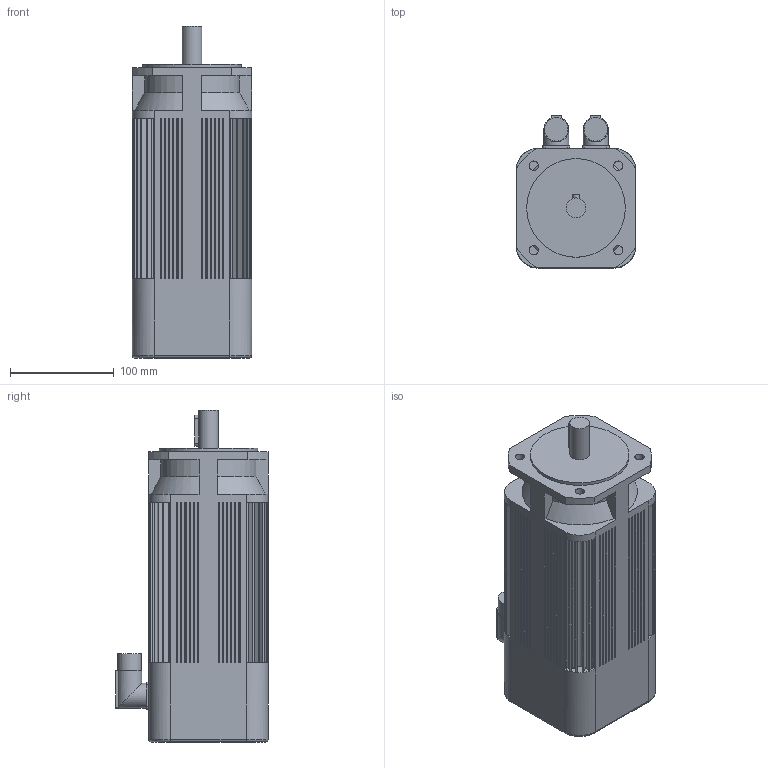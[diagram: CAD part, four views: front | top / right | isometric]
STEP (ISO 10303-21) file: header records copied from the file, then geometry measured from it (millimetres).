
FILE_DESCRIPTION(/* description */ (''),/* implementation_level */ '2;1');
FILE_NAME(/* name */ '\\Lafnas01\disegni\Archivi Lafert\3D\CAD 3D\MODELLI\Assiemi clienti\Serad\Modelli 3D Serad\B63I\Resolver\Res With Brake\B6306Ixx6B052033.ipt.stp',/* time_stamp */ '2015-09-07T10:50:43+02:00',/* author */ ('Pastrello Ylenia'),/* organization */ (''),/* preprocessor_version */ 'ST-DEVELOPER v15.6',/* originating_system */ 'Autodesk Inventor 2015',/* authorisation */ '');
FILE_SCHEMA (('AUTOMOTIVE_DESIGN { 1 0 10303 214 3 1 1 }'));
Length unit declared in the file: millimetre
Products named in the file (1): B6306Ixx6B052033
Bounding box: 115 x 146.5 x 319.5 mm (x, y, z)
Volume: 3439210.3 mm3; surface area: 201730.6 mm2
Topology: 1 solids, 1 shells, 445 faces, 1091 edges, 704 vertices
Faces by surface type: plane 351, cylinder 86, cone 4, torus 4
Full cylindrical faces by diameter (mm): 9 x4, 19 x1, 22.7 x2, 24 x2, 95 x1
Entity records: 13008 total; most frequent: CARTESIAN_POINT 2276, DIRECTION 2254, ORIENTED_EDGE 2156, EDGE_CURVE 1078, LINE 774, VECTOR 774, AXIS2_PLACEMENT_3D 740, VERTEX_POINT 702
